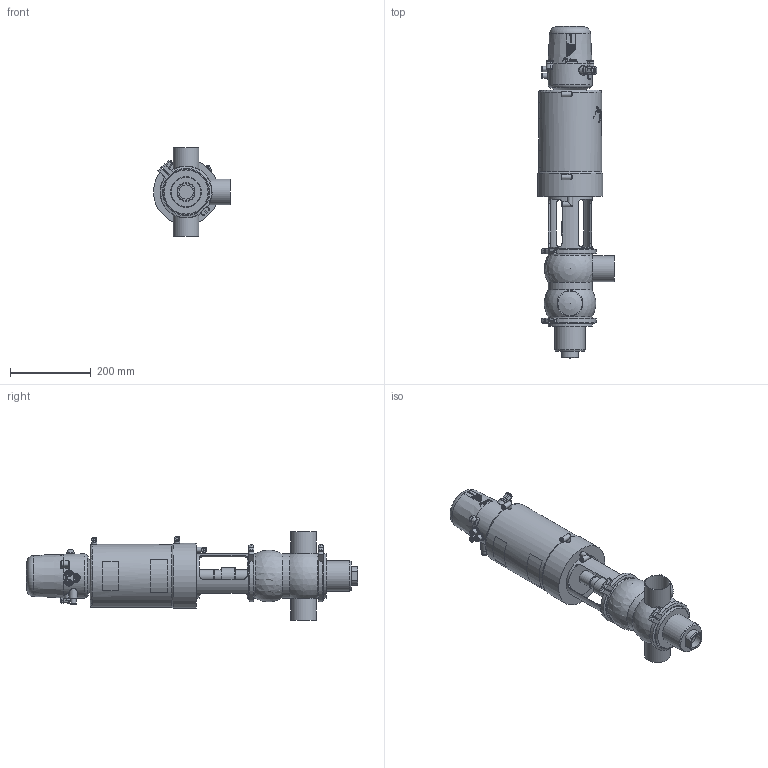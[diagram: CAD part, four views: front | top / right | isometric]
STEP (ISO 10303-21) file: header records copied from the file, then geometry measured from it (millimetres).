
FILE_DESCRIPTION (( 'STEP AP214' ), '1' );
FILE_NAME ('INNOVA P BB-90 W OD 2½ & C-TOP S_10.250.16.0013.STEP', '2024-08-09T11:58:31', ( '' ), ( '' ), 'SwSTEP 2.0', 'SolidWorks 2023', '' );
FILE_SCHEMA (( 'AUTOMOTIVE_DESIGN' ));
Length unit declared in the file: millimetre
Products named in the file (7): 10.250.15.0003_DN 2½"; INNOVA P BB-90 W OD 2½ & C-TOP S_10.250.16.0013; 10.426.15.0001_C-TOP S - 3 EV; 10.250.15.0002_Type P T2; 10.240.15.0001_DN 065; 10.251.15.0005_OD 2½"; 10.250.15.0001_OD 2½"
Assembly tree (7 placements, depth 2):
  INNOVA P BB-90 W OD 2½ & C-TOP S_10.250.16.0013
    10.250.15.0001_OD 2½"
    10.250.15.0002_Type P T2
    10.426.15.0001_C-TOP S - 3 EV
    10.251.15.0005_OD 2½"
    10.240.15.0001_DN 065  x2
    10.250.15.0003_DN 2½"
Bounding box: 190.5 x 821.8 x 220 mm (x, y, z)
Volume: 9334396.9 mm3; surface area: 587446.1 mm2
Topology: 7 solids, 7 shells, 1206 faces, 2900 edges, 1928 vertices
Faces by surface type: plane 413, cylinder 385, cone 204, bspline 162, torus 33, sphere 9
Full cylindrical faces by diameter (mm): 0.371 x17, 0.512 x16, 0.658 x16, 0.795 x16, 0.94 x15, 1.098 x15, 1.241 x13, 1.382 x13, 1.523 x11, 1.669 x10, 2.201 x1, 4.2 x2, 5 x1, 5.5 x2, 6 x4, 6.15 x3, 8 x5, 10 x1, 10.5 x3, 11 x4, 12.5 x9, 13 x6, 13.5 x2, 17 x3, 20 x2, 22 x2, 30.5 x2, 32 x1, 35 x1, 41 x1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
Entity records: 60065 total; most frequent: CARTESIAN_POINT 28664, ORIENTED_EDGE 4604, DIRECTION 3761, EDGE_CURVE 2302, VERTEX_POINT 1644, EDGE_LOOP 1632, AXIS2_PLACEMENT_3D 1550, FACE_OUTER_BOUND 1377
